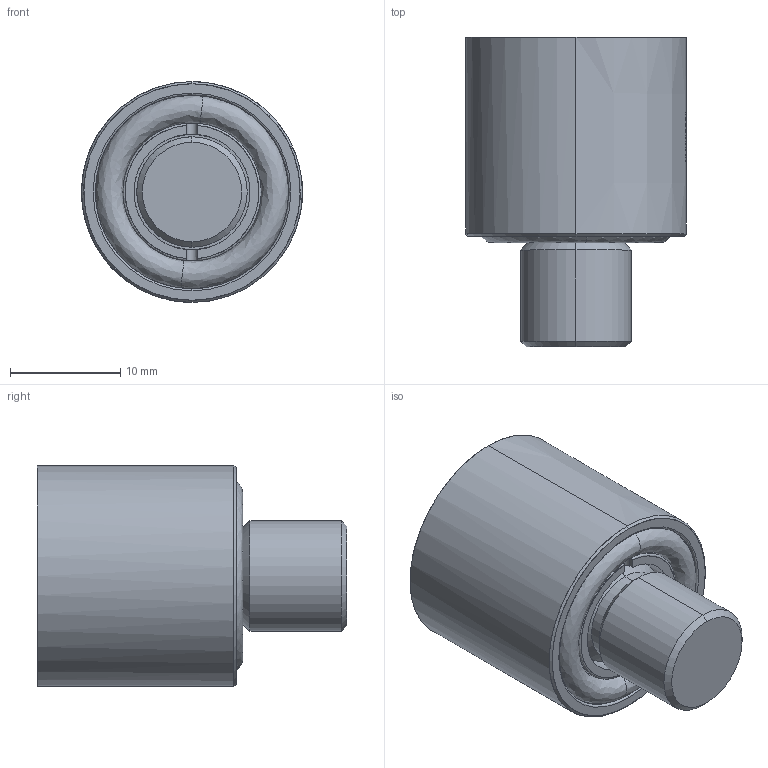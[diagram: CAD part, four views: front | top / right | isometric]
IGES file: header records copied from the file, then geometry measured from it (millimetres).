
Start section: START RECORD GO HERE.
Global section: file name: sa200018.igs; native system: DASSAULT SYSTEMES CATIA V5 R20 - www.3ds.com; preprocessor: CATIA Version 5 Release 20 ; author: Utente; organization: NB04-ASUS; date: 20201107.131753; units: millimetre
Bounding box: 20 x 28 x 20 mm (x, y, z)
Surface area: 4141.1 mm2 (no closed solid volume)
Topology: 0 solids, 0 shells, 497 faces, 2766 edges, 2764 vertices
Faces by surface type: bspline 304, plane 102, revolution 91
